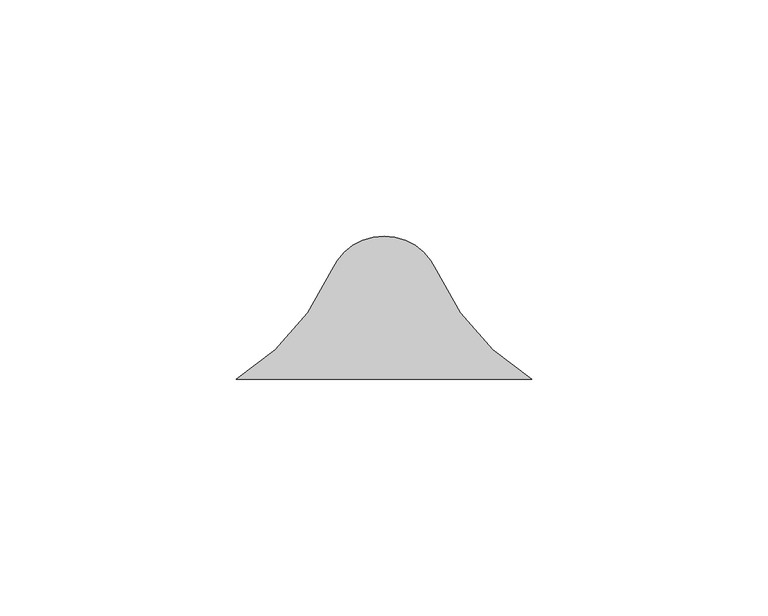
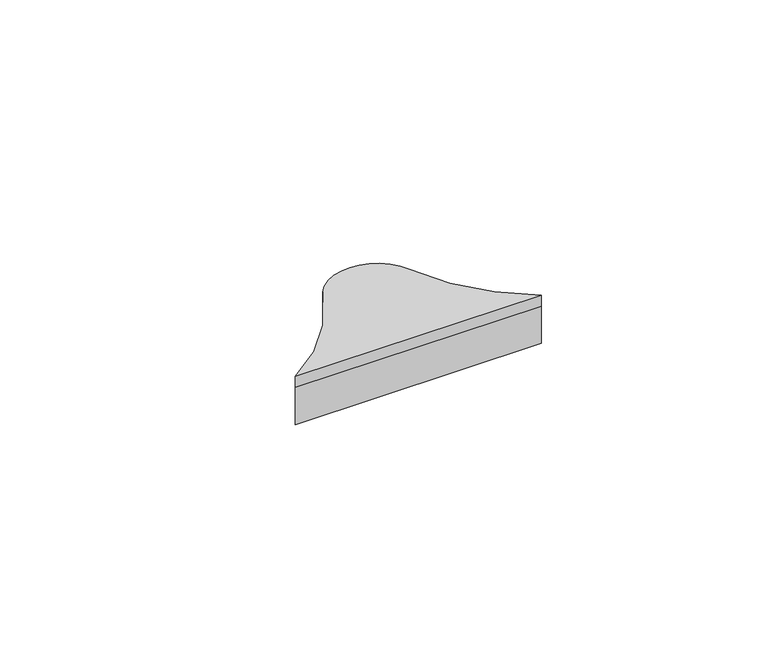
"""IFC4 building model written with IfcOpenShell, lengths in millimetres: proxy geometry, FilzFelt_Fish_Block : Fish Block."""

from ifc_helpers import new_model, si_unit, frame, origin, place, context, project, spatial, polyline, circle_curve, source, transform, mapped, element, save
from ifc_brep_helpers import plane_surface, cylinder_surface, revolved_surface, advanced_brep


def specialty_equipment_34b07f8f(model_context):
    return source(origin(), model_context, "Body", "AdvancedBrep", [
        advanced_brep(
        [(-31.2619065, 106.3338576, 10.0210937), (-11.0103348, 129.4133496, 10.0210937), (11.0103348, 129.4133496, 10.0210937), (31.2619065, 106.3338576, 10.0210937), (31.2619065, 106.3338576, 12.9976563), (11.0103348, 129.4133496, 12.9976563), (0.0, 136.5838795, 12.9976563), (-11.0103348, 129.4133496, 12.9976563), (-31.2619065, 106.3338576, 12.9976563)],
        [
            (0, 1, circle_curve(frame((-57.9263497, 150.1559416, 10.0210937), z_axis=(0.0, 0.0, 1.0), x_axis=(-1.0, 0.0, 0.0)), 51.2968574)),
            (1, 2, circle_curve(frame((0.0, 124.5454408, 10.0210937), z_axis=(0.0, 0.0, -1.0), x_axis=(-1.0, 0.0, 0.0)), 12.0384388)),
            (2, 3, circle_curve(frame((57.9263497, 150.1559416, 10.0210937), z_axis=(0.0, 0.0, 1.0), x_axis=(-1.0, 0.0, 0.0)), 51.2968574)),
            (3, 0),
            (4, 5, circle_curve(frame((57.9263497, 150.1559416, 12.9976563), z_axis=(0.0, 0.0, -1.0), x_axis=(-1.0, 0.0, 0.0)), 51.2968574)),
            (5, 6, circle_curve(frame((0.0, 124.5454408, 12.9976563), z_axis=(0.0, 0.0, 1.0), x_axis=(-1.0, 0.0, 0.0)), 12.0384388)),
            (6, 7, circle_curve(frame((0.0, 124.5454408, 12.9976563), z_axis=(0.0, 0.0, 1.0), x_axis=(-1.0, 0.0, 0.0)), 12.0384388)),
            (7, 8, circle_curve(frame((-57.9263497, 150.1559416, 12.9976563), z_axis=(0.0, 0.0, -1.0), x_axis=(-1.0, 0.0, 0.0)), 51.2968574)),
            (8, 4),
            (0, 8),
            (7, 1),
            (5, 2),
            (4, 3),
        ],
        [
            plane_surface(frame((0.0, 0.0, 10.0210937), z_axis=(0.0, 0.0, -1.0), x_axis=(0.0, -1.0, 0.0))),
            plane_surface(frame((0.0, 0.0, 12.9976563), z_axis=(0.0, 0.0, 1.0), x_axis=(0.0, -1.0, 0.0))),
            revolved_surface(polyline([(-109.2232071, 150.1559416, 12.9976563), (-109.2232071, 150.1559416, 10.0210937)]), (-57.9263497, 150.1559416, 10.0210937), (0.0, 0.0, 1.0)),
            cylinder_surface(frame((0.0, 124.5454408, 10.0210937), z_axis=(0.0, 0.0, -1.0), x_axis=(-1.0, 0.0, 0.0)), 12.0384388),
            revolved_surface(polyline([(6.629492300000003, 150.1559416, 12.9976563), (6.629492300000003, 150.1559416, 10.0210937)]), (57.9263497, 150.1559416, 10.0210937), (0.0, 0.0, 1.0)),
            plane_surface(frame((112.4642226, 106.3386324, 12.9976562), z_axis=(0.0, -1.0, 0.0), x_axis=(0.0, 0.0, -1.0))),
        ],
        [
            (0, [[1, 2, 3, 4]]),
            (1, [[5, 6, 7, 8, 9]]),
            (2, [[-1, 10, -8, 11]]),
            (3, [[-2, -11, -7, -6, 12]]),
            (4, [[-3, -12, -5, 13]]),
            (5, [[-4, -13, -9, -10]]),
        ],
    ),
        advanced_brep(
        [(-31.2619065, 106.3338576, 0.0), (-11.0103348, 129.4133496, 0.0), (0.0, 136.5838795, 0.0), (11.0103348, 129.4133496, 0.0), (31.2619065, 106.3338576, 0.0), (31.2619065, 106.3338576, 10.0210937), (11.0103348, 129.4133496, 10.0210937), (-11.0103348, 129.4133496, 10.0210937), (-31.2619065, 106.3338576, 10.0210937)],
        [
            (0, 1, circle_curve(frame((-57.9263497, 150.1559416, 0.0), z_axis=(0.0, 0.0, 1.0), x_axis=(-1.0, 0.0, 0.0)), 51.2968574)),
            (1, 2, circle_curve(frame((0.0, 124.5454408, 0.0), z_axis=(0.0, 0.0, -1.0), x_axis=(-1.0, 0.0, 0.0)), 12.0384388)),
            (2, 3, circle_curve(frame((0.0, 124.5454408, 0.0), z_axis=(0.0, 0.0, -1.0), x_axis=(-1.0, 0.0, 0.0)), 12.0384388)),
            (3, 4, circle_curve(frame((57.9263497, 150.1559416, 0.0), z_axis=(0.0, 0.0, 1.0), x_axis=(-1.0, 0.0, 0.0)), 51.2968574)),
            (4, 0),
            (5, 6, circle_curve(frame((57.9263497, 150.1559416, 10.0210937), z_axis=(0.0, 0.0, -1.0), x_axis=(-1.0, 0.0, 0.0)), 51.2968574)),
            (6, 7, circle_curve(frame((0.0, 124.5454408, 10.0210937), z_axis=(0.0, 0.0, 1.0), x_axis=(-1.0, 0.0, 0.0)), 12.0384388)),
            (7, 8, circle_curve(frame((-57.9263497, 150.1559416, 10.0210937), z_axis=(0.0, 0.0, -1.0), x_axis=(-1.0, 0.0, 0.0)), 51.2968574)),
            (8, 5),
            (0, 8),
            (7, 1),
            (6, 3),
            (5, 4),
        ],
        [
            plane_surface(frame((0.0, 0.0, 0.0), z_axis=(0.0, 0.0, -1.0), x_axis=(0.0, -1.0, 0.0))),
            plane_surface(frame((0.0, 0.0, 10.0210937), z_axis=(0.0, 0.0, 1.0), x_axis=(0.0, -1.0, 0.0))),
            revolved_surface(polyline([(-109.2232071, 150.1559416, 10.0210937), (-109.2232071, 150.1559416, 0.0)]), (-57.9263497, 150.1559416, 0.0), (0.0, 0.0, 1.0)),
            cylinder_surface(frame((0.0, 124.5454408, 0.0), z_axis=(0.0, 0.0, -1.0), x_axis=(-1.0, 0.0, 0.0)), 12.0384388),
            revolved_surface(polyline([(6.629492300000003, 150.1559416, 10.0210937), (6.629492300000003, 150.1559416, 0.0)]), (57.9263497, 150.1559416, 0.0), (0.0, 0.0, 1.0)),
            plane_surface(frame((112.4642226, 106.3386324, 12.9976562), z_axis=(0.0, -1.0, 0.0), x_axis=(0.0, 0.0, -1.0))),
        ],
        [
            (0, [[1, 2, 3, 4, 5]]),
            (1, [[6, 7, 8, 9]]),
            (2, [[-1, 10, -8, 11]]),
            (3, [[-7, 12, -3, -2, -11]]),
            (4, [[-4, -12, -6, 13]]),
            (5, [[-5, -13, -9, -10]]),
        ],
    ),
    ])


if __name__ == "__main__":
    model = new_model("IFC4")
    model_context = context("Model", 3, world=origin())
    ifc_project = project(units=[si_unit("LENGTHUNIT", "METRE", prefix="MILLI")], contexts=[model_context])
    site = spatial("IfcSite", under=ifc_project)
    building = spatial("IfcBuilding", under=site)
    placement = place(None, origin())
    specialty_equipment_shape = specialty_equipment_34b07f8f(model_context)
    element("IfcBuildingElementProxy", 1, Name="FilzFelt_Fish_Block : Fish Block", ObjectType="FilzFelt_Fish_Block : Fish Block", at=placement, inside=building, context=model_context, shape_type="MappedRepresentation", body=[
        mapped(specialty_equipment_shape, transform((0.0, 0.0, 0.0), x_axis=(1.0, 0.0, 0.0), y_axis=(0.0, 1.0, 0.0), z_axis=(0.0, 0.0, 1.0))),
    ])
    save(model, "model.ifc")
